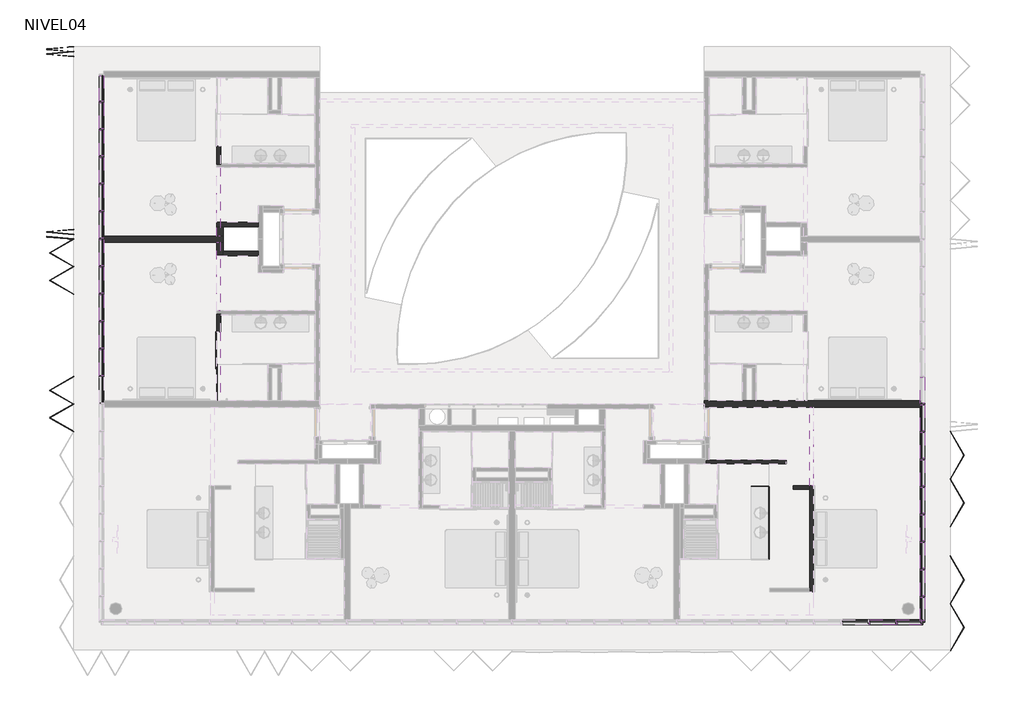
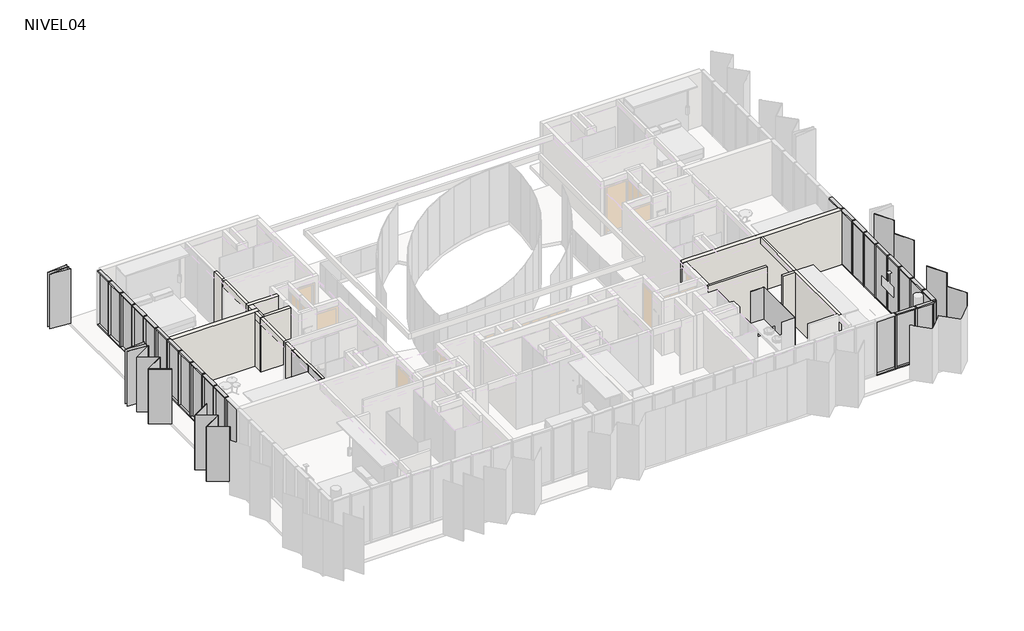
# One storey, part 4 of 8: 68 members, 30 plates, 18 walls.
"""IFC4 building model written with IfcOpenShell, lengths in millimetres."""

from ifc_helpers import new_model, si_unit, frame, origin, place, context, project, spatial, polyline, outline, extrude, faceted_brep, transform, mapped, element, save
from components import rectangular_mullion_50_x_150mm_8dc60d6a, rectangular_mullion_50_x_150mm_324a6438, rectangular_mullion_50_x_150mm_d09437e2, rectangular_mullion_50_x_150mm_5dc04e1f, rectangular_mullion_50_x_150mm_33c2bde1, rectangular_mullion_50_x_150mm_da4cfd0d, folding_hd_folding_hd_60_29c1f600, folding_hd_folding_hd_85_cdaf17b6, plate_a966da8b, panel_corredera_cr_panel_corredera_0b5135b5, system_panel_cr_shower_91adf229, system_panel_cr_shower_8ff19449, system_panel_cr_shower_d0c7b907, system_panel_glazed_8b30d0e9, system_panel_glazed_8b1c2311, system_panel_glazed_24c908d7, system_panel_glazed_6ccc6dc1

model = new_model("IFC4")

# Units and contexts
model_context = context("Model", 3, world=origin())
ifc_project = project(units=[si_unit("LENGTHUNIT", "METRE", prefix="MILLI")], contexts=[model_context])

# Site, building, storey
site = spatial("IfcSite", under=ifc_project)
building = spatial("IfcBuilding", under=site)
storey = spatial("IfcBuildingStorey", under=building, Name="NIVEL04", Elevation=7940.0)

# Members
placement = place(None, origin())
rectangular_mullion_50_x_150mm_shape = rectangular_mullion_50_x_150mm_8dc60d6a(model_context)
element("IfcMember", 1, ObjectType="Rectangular Mullion : 50 x 150mm", at=placement, inside=storey, context=model_context, shape_type="MappedRepresentation", body=[
    mapped(rectangular_mullion_50_x_150mm_shape, transform((-20633.5934748, 9658.9139237, 10490.0), x_axis=(0.0, 0.0, 1.0), y_axis=(-1.0, 0.0, 0.0), z_axis=(0.0, -1.0, 0.0))),
])
rectangular_mullion_50_x_150mm_2_shape = rectangular_mullion_50_x_150mm_324a6438(model_context)
element("IfcMember", 2, ObjectType="Rectangular Mullion : 50 x 150mm", at=placement, inside=storey, context=model_context, shape_type="MappedRepresentation", body=[
    mapped(rectangular_mullion_50_x_150mm_2_shape, transform((-20633.5934748, 8758.9139237, 10490.0), x_axis=(0.0, 0.0, 1.0), y_axis=(-1.0, 0.0, 0.0), z_axis=(0.0, -1.0, 0.0))),
])
element("IfcMember", 3, ObjectType="Rectangular Mullion : 50 x 150mm", at=placement, inside=storey, context=model_context, shape_type="MappedRepresentation", body=[
    mapped(rectangular_mullion_50_x_150mm_2_shape, transform((-20633.5934748, 7858.9139237, 10490.0), x_axis=(0.0, 0.0, 1.0), y_axis=(-1.0, 0.0, 0.0), z_axis=(0.0, -1.0, 0.0))),
])
element("IfcMember", 4, ObjectType="Rectangular Mullion : 50 x 150mm", at=placement, inside=storey, context=model_context, shape_type="MappedRepresentation", body=[
    mapped(rectangular_mullion_50_x_150mm_2_shape, transform((-20633.5934748, 6958.9139237, 10490.0), x_axis=(0.0, 0.0, 1.0), y_axis=(-1.0, 0.0, 0.0), z_axis=(0.0, -1.0, 0.0))),
])
element("IfcMember", 5, ObjectType="Rectangular Mullion : 50 x 150mm", at=placement, inside=storey, context=model_context, shape_type="MappedRepresentation", body=[
    mapped(rectangular_mullion_50_x_150mm_2_shape, transform((-20633.5934748, 6058.9139237, 10490.0), x_axis=(0.0, 0.0, 1.0), y_axis=(-1.0, 0.0, 0.0), z_axis=(0.0, -1.0, 0.0))),
])
element("IfcMember", 6, ObjectType="Rectangular Mullion : 50 x 150mm", at=placement, inside=storey, context=model_context, shape_type="MappedRepresentation", body=[
    mapped(rectangular_mullion_50_x_150mm_2_shape, transform((-20633.5934748, 5158.9139237, 10490.0), x_axis=(0.0, 0.0, 1.0), y_axis=(-1.0, 0.0, 0.0), z_axis=(0.0, -1.0, 0.0))),
])
element("IfcMember", 7, ObjectType="Rectangular Mullion : 50 x 150mm", at=placement, inside=storey, context=model_context, shape_type="MappedRepresentation", body=[
    mapped(rectangular_mullion_50_x_150mm_2_shape, transform((-20633.5934748, 4258.9139237, 10490.0), x_axis=(0.0, 0.0, 1.0), y_axis=(-1.0, 0.0, 0.0), z_axis=(0.0, -1.0, 0.0))),
])
element("IfcMember", 8, ObjectType="Rectangular Mullion : 50 x 150mm", at=placement, inside=storey, context=model_context, shape_type="MappedRepresentation", body=[
    mapped(rectangular_mullion_50_x_150mm_2_shape, transform((-20633.5934748, 3358.9139237, 10490.0), x_axis=(0.0, 0.0, 1.0), y_axis=(-1.0, 0.0, 0.0), z_axis=(0.0, -1.0, 0.0))),
])
element("IfcMember", 9, ObjectType="Rectangular Mullion : 50 x 150mm", at=placement, inside=storey, context=model_context, shape_type="MappedRepresentation", body=[
    mapped(rectangular_mullion_50_x_150mm_2_shape, transform((-20633.5934748, 2458.9139237, 10490.0), x_axis=(0.0, 0.0, 1.0), y_axis=(-1.0, 0.0, 0.0), z_axis=(0.0, -1.0, 0.0))),
])
element("IfcMember", 10, ObjectType="Rectangular Mullion : 50 x 150mm", at=placement, inside=storey, context=model_context, shape_type="MappedRepresentation", body=[
    mapped(rectangular_mullion_50_x_150mm_2_shape, transform((-20633.5934748, 1558.9139237, 10490.0), x_axis=(0.0, 0.0, 1.0), y_axis=(-1.0, 0.0, 0.0), z_axis=(0.0, -1.0, 0.0))),
])
element("IfcMember", 11, ObjectType="Rectangular Mullion : 50 x 150mm", at=placement, inside=storey, context=model_context, shape_type="MappedRepresentation", body=[
    mapped(rectangular_mullion_50_x_150mm_2_shape, transform((-20633.5934748, 658.9139237, 10490.0), x_axis=(0.0, 0.0, 1.0), y_axis=(-1.0, 0.0, 0.0), z_axis=(0.0, -1.0, 0.0))),
])
element("IfcMember", 12, ObjectType="Rectangular Mullion : 50 x 150mm", at=placement, inside=storey, context=model_context, shape_type="MappedRepresentation", body=[
    mapped(rectangular_mullion_50_x_150mm_shape, transform((-20633.5934748, 10483.9139241, 7920.0), x_axis=(0.0, 0.0, -1.0), y_axis=(-1.0, 0.0, 0.0), z_axis=(0.0, 1.0, 0.0))),
])
element("IfcMember", 13, ObjectType="Rectangular Mullion : 50 x 150mm", at=placement, inside=storey, context=model_context, shape_type="MappedRepresentation", body=[
    mapped(rectangular_mullion_50_x_150mm_2_shape, transform((-20633.5934748, 9608.9139237, 7920.0), x_axis=(0.0, 0.0, -1.0), y_axis=(-1.0, 0.0, 0.0), z_axis=(0.0, 1.0, 0.0))),
])
element("IfcMember", 14, ObjectType="Rectangular Mullion : 50 x 150mm", at=placement, inside=storey, context=model_context, shape_type="MappedRepresentation", body=[
    mapped(rectangular_mullion_50_x_150mm_2_shape, transform((-20633.5934748, 8708.9139237, 7920.0), x_axis=(0.0, 0.0, -1.0), y_axis=(-1.0, 0.0, 0.0), z_axis=(0.0, 1.0, 0.0))),
])
element("IfcMember", 15, ObjectType="Rectangular Mullion : 50 x 150mm", at=placement, inside=storey, context=model_context, shape_type="MappedRepresentation", body=[
    mapped(rectangular_mullion_50_x_150mm_2_shape, transform((-20633.5934748, 7808.9139237, 7920.0), x_axis=(0.0, 0.0, -1.0), y_axis=(-1.0, 0.0, 0.0), z_axis=(0.0, 1.0, 0.0))),
])
element("IfcMember", 16, ObjectType="Rectangular Mullion : 50 x 150mm", at=placement, inside=storey, context=model_context, shape_type="MappedRepresentation", body=[
    mapped(rectangular_mullion_50_x_150mm_2_shape, transform((-20633.5934748, 6908.9139237, 7920.0), x_axis=(0.0, 0.0, -1.0), y_axis=(-1.0, 0.0, 0.0), z_axis=(0.0, 1.0, 0.0))),
])
element("IfcMember", 17, ObjectType="Rectangular Mullion : 50 x 150mm", at=placement, inside=storey, context=model_context, shape_type="MappedRepresentation", body=[
    mapped(rectangular_mullion_50_x_150mm_2_shape, transform((-20633.5934748, 6008.9139237, 7920.0), x_axis=(0.0, 0.0, -1.0), y_axis=(-1.0, 0.0, 0.0), z_axis=(0.0, 1.0, 0.0))),
])
element("IfcMember", 18, ObjectType="Rectangular Mullion : 50 x 150mm", at=placement, inside=storey, context=model_context, shape_type="MappedRepresentation", body=[
    mapped(rectangular_mullion_50_x_150mm_2_shape, transform((-20633.5934748, 5108.9139237, 7920.0), x_axis=(0.0, 0.0, -1.0), y_axis=(-1.0, 0.0, 0.0), z_axis=(0.0, 1.0, 0.0))),
])
element("IfcMember", 19, ObjectType="Rectangular Mullion : 50 x 150mm", at=placement, inside=storey, context=model_context, shape_type="MappedRepresentation", body=[
    mapped(rectangular_mullion_50_x_150mm_2_shape, transform((-20633.5934748, 4208.9139237, 7920.0), x_axis=(0.0, 0.0, -1.0), y_axis=(-1.0, 0.0, 0.0), z_axis=(0.0, 1.0, 0.0))),
])
element("IfcMember", 20, ObjectType="Rectangular Mullion : 50 x 150mm", at=placement, inside=storey, context=model_context, shape_type="MappedRepresentation", body=[
    mapped(rectangular_mullion_50_x_150mm_2_shape, transform((-20633.5934748, 3308.9139237, 7920.0), x_axis=(0.0, 0.0, -1.0), y_axis=(-1.0, 0.0, 0.0), z_axis=(0.0, 1.0, 0.0))),
])
element("IfcMember", 21, ObjectType="Rectangular Mullion : 50 x 150mm", at=placement, inside=storey, context=model_context, shape_type="MappedRepresentation", body=[
    mapped(rectangular_mullion_50_x_150mm_2_shape, transform((-20633.5934748, 2408.9139237, 7920.0), x_axis=(0.0, 0.0, -1.0), y_axis=(-1.0, 0.0, 0.0), z_axis=(0.0, 1.0, 0.0))),
])
element("IfcMember", 22, ObjectType="Rectangular Mullion : 50 x 150mm", at=placement, inside=storey, context=model_context, shape_type="MappedRepresentation", body=[
    mapped(rectangular_mullion_50_x_150mm_2_shape, transform((-20633.5934748, 1508.9139237, 7920.0), x_axis=(0.0, 0.0, -1.0), y_axis=(-1.0, 0.0, 0.0), z_axis=(0.0, 1.0, 0.0))),
])
element("IfcMember", 23, ObjectType="Rectangular Mullion : 50 x 150mm", at=placement, inside=storey, context=model_context, shape_type="MappedRepresentation", body=[
    mapped(rectangular_mullion_50_x_150mm_2_shape, transform((-20633.5934748, 608.9139237, 7920.0), x_axis=(0.0, 0.0, -1.0), y_axis=(-1.0, 0.0, 0.0), z_axis=(0.0, 1.0, 0.0))),
])
element("IfcMember", 24, ObjectType="Rectangular Mullion : 50 x 150mm", at=placement, inside=storey, context=model_context, shape_type="MappedRepresentation", body=[
    mapped(rectangular_mullion_50_x_150mm_2_shape, transform((4541.4065252, -7416.0860759, 10490.0), x_axis=(0.0, 0.0, 1.0), y_axis=(0.0, 1.0, 0.0), z_axis=(-1.0, 0.0, 0.0))),
])
element("IfcMember", 25, ObjectType="Rectangular Mullion : 50 x 150mm", at=placement, inside=storey, context=model_context, shape_type="MappedRepresentation", body=[
    mapped(rectangular_mullion_50_x_150mm_2_shape, transform((4491.4065252, -7416.0860759, 7920.0), x_axis=(0.0, 0.0, -1.0), y_axis=(0.0, 1.0, 0.0), z_axis=(1.0, 0.0, 0.0))),
])
element("IfcMember", 26, ObjectType="Rectangular Mullion : 50 x 150mm", at=placement, inside=storey, context=model_context, shape_type="MappedRepresentation", body=[
    mapped(rectangular_mullion_50_x_150mm_2_shape, transform((5391.4065252, -7416.0860759, 7920.0), x_axis=(0.0, 0.0, -1.0), y_axis=(0.0, 1.0, 0.0), z_axis=(1.0, 0.0, 0.0))),
])
rectangular_mullion_50_x_150mm_3_shape = rectangular_mullion_50_x_150mm_d09437e2(model_context)
element("IfcMember", 27, ObjectType="Rectangular Mullion : 50 x 150mm", at=placement, inside=storey, context=model_context, shape_type="MappedRepresentation", body=[
    mapped(rectangular_mullion_50_x_150mm_3_shape, transform((6266.4065252, -7366.0860759, 10490.0), x_axis=(0.0, 0.0, 1.0), y_axis=(-1.0, 0.0, 0.0), z_axis=(0.0, -1.0, 0.0))),
])
element("IfcMember", 28, ObjectType="Rectangular Mullion : 50 x 150mm", at=placement, inside=storey, context=model_context, shape_type="MappedRepresentation", body=[
    mapped(rectangular_mullion_50_x_150mm_2_shape, transform((6266.4065252, -241.0860763, 10490.0), x_axis=(0.0, 0.0, 1.0), y_axis=(-1.0, 0.0, 0.0), z_axis=(0.0, -1.0, 0.0))),
])
element("IfcMember", 29, ObjectType="Rectangular Mullion : 50 x 150mm", at=placement, inside=storey, context=model_context, shape_type="MappedRepresentation", body=[
    mapped(rectangular_mullion_50_x_150mm_2_shape, transform((6266.4065252, -1141.0860763, 10490.0), x_axis=(0.0, 0.0, 1.0), y_axis=(-1.0, 0.0, 0.0), z_axis=(0.0, -1.0, 0.0))),
])
element("IfcMember", 30, ObjectType="Rectangular Mullion : 50 x 150mm", at=placement, inside=storey, context=model_context, shape_type="MappedRepresentation", body=[
    mapped(rectangular_mullion_50_x_150mm_2_shape, transform((6266.4065252, -2041.0860763, 10490.0), x_axis=(0.0, 0.0, 1.0), y_axis=(-1.0, 0.0, 0.0), z_axis=(0.0, -1.0, 0.0))),
])
element("IfcMember", 31, ObjectType="Rectangular Mullion : 50 x 150mm", at=placement, inside=storey, context=model_context, shape_type="MappedRepresentation", body=[
    mapped(rectangular_mullion_50_x_150mm_2_shape, transform((6266.4065252, -2941.0860763, 10490.0), x_axis=(0.0, 0.0, 1.0), y_axis=(-1.0, 0.0, 0.0), z_axis=(0.0, -1.0, 0.0))),
])
element("IfcMember", 32, ObjectType="Rectangular Mullion : 50 x 150mm", at=placement, inside=storey, context=model_context, shape_type="MappedRepresentation", body=[
    mapped(rectangular_mullion_50_x_150mm_2_shape, transform((6266.4065252, -3841.0860763, 10490.0), x_axis=(0.0, 0.0, 1.0), y_axis=(-1.0, 0.0, 0.0), z_axis=(0.0, -1.0, 0.0))),
])
element("IfcMember", 33, ObjectType="Rectangular Mullion : 50 x 150mm", at=placement, inside=storey, context=model_context, shape_type="MappedRepresentation", body=[
    mapped(rectangular_mullion_50_x_150mm_2_shape, transform((6266.4065252, -4741.0860763, 10490.0), x_axis=(0.0, 0.0, 1.0), y_axis=(-1.0, 0.0, 0.0), z_axis=(0.0, -1.0, 0.0))),
])
element("IfcMember", 34, ObjectType="Rectangular Mullion : 50 x 150mm", at=placement, inside=storey, context=model_context, shape_type="MappedRepresentation", body=[
    mapped(rectangular_mullion_50_x_150mm_2_shape, transform((6266.4065252, -5641.0860763, 10490.0), x_axis=(0.0, 0.0, 1.0), y_axis=(-1.0, 0.0, 0.0), z_axis=(0.0, -1.0, 0.0))),
])
element("IfcMember", 35, ObjectType="Rectangular Mullion : 50 x 150mm", at=placement, inside=storey, context=model_context, shape_type="MappedRepresentation", body=[
    mapped(rectangular_mullion_50_x_150mm_2_shape, transform((6266.4065252, -6541.0860763, 10490.0), x_axis=(0.0, 0.0, 1.0), y_axis=(-1.0, 0.0, 0.0), z_axis=(0.0, -1.0, 0.0))),
])
element("IfcMember", 36, ObjectType="Rectangular Mullion : 50 x 150mm", at=placement, inside=storey, context=model_context, shape_type="MappedRepresentation", body=[
    mapped(rectangular_mullion_50_x_150mm_2_shape, transform((6266.4065252, -291.0860763, 7920.0), x_axis=(0.0, 0.0, -1.0), y_axis=(-1.0, 0.0, 0.0), z_axis=(0.0, 1.0, 0.0))),
])
element("IfcMember", 37, ObjectType="Rectangular Mullion : 50 x 150mm", at=placement, inside=storey, context=model_context, shape_type="MappedRepresentation", body=[
    mapped(rectangular_mullion_50_x_150mm_2_shape, transform((6266.4065252, -1191.0860763, 7920.0), x_axis=(0.0, 0.0, -1.0), y_axis=(-1.0, 0.0, 0.0), z_axis=(0.0, 1.0, 0.0))),
])
element("IfcMember", 38, ObjectType="Rectangular Mullion : 50 x 150mm", at=placement, inside=storey, context=model_context, shape_type="MappedRepresentation", body=[
    mapped(rectangular_mullion_50_x_150mm_2_shape, transform((6266.4065252, -2091.0860763, 7920.0), x_axis=(0.0, 0.0, -1.0), y_axis=(-1.0, 0.0, 0.0), z_axis=(0.0, 1.0, 0.0))),
])
element("IfcMember", 39, ObjectType="Rectangular Mullion : 50 x 150mm", at=placement, inside=storey, context=model_context, shape_type="MappedRepresentation", body=[
    mapped(rectangular_mullion_50_x_150mm_2_shape, transform((6266.4065252, -2991.0860763, 7920.0), x_axis=(0.0, 0.0, -1.0), y_axis=(-1.0, 0.0, 0.0), z_axis=(0.0, 1.0, 0.0))),
])
element("IfcMember", 40, ObjectType="Rectangular Mullion : 50 x 150mm", at=placement, inside=storey, context=model_context, shape_type="MappedRepresentation", body=[
    mapped(rectangular_mullion_50_x_150mm_2_shape, transform((6266.4065252, -3891.0860763, 7920.0), x_axis=(0.0, 0.0, -1.0), y_axis=(-1.0, 0.0, 0.0), z_axis=(0.0, 1.0, 0.0))),
])
element("IfcMember", 41, ObjectType="Rectangular Mullion : 50 x 150mm", at=placement, inside=storey, context=model_context, shape_type="MappedRepresentation", body=[
    mapped(rectangular_mullion_50_x_150mm_2_shape, transform((6266.4065252, -4791.0860763, 7920.0), x_axis=(0.0, 0.0, -1.0), y_axis=(-1.0, 0.0, 0.0), z_axis=(0.0, 1.0, 0.0))),
])
element("IfcMember", 42, ObjectType="Rectangular Mullion : 50 x 150mm", at=placement, inside=storey, context=model_context, shape_type="MappedRepresentation", body=[
    mapped(rectangular_mullion_50_x_150mm_2_shape, transform((6266.4065252, -5691.0860763, 7920.0), x_axis=(0.0, 0.0, -1.0), y_axis=(-1.0, 0.0, 0.0), z_axis=(0.0, 1.0, 0.0))),
])
element("IfcMember", 43, ObjectType="Rectangular Mullion : 50 x 150mm", at=placement, inside=storey, context=model_context, shape_type="MappedRepresentation", body=[
    mapped(rectangular_mullion_50_x_150mm_3_shape, transform((6266.4065252, -6591.0860763, 7920.0), x_axis=(0.0, 0.0, -1.0), y_axis=(-1.0, 0.0, 0.0), z_axis=(0.0, 1.0, 0.0))),
])
rectangular_mullion_50_x_150mm_4_shape = rectangular_mullion_50_x_150mm_5dc04e1f(model_context)
element("IfcMember", 44, ObjectType="Rectangular Mullion : 50 x 150mm", at=placement, inside=storey, context=model_context, shape_type="MappedRepresentation", body=[
    mapped(rectangular_mullion_50_x_150mm_4_shape, transform((5441.4065252, -7416.0860759, 10490.0), x_axis=(0.0, 0.0, 1.0), y_axis=(0.0, 1.0, 0.0), z_axis=(-1.0, 0.0, 0.0))),
])
element("IfcMember", 45, ObjectType="Rectangular Mullion : 50 x 150mm", at=placement, inside=storey, context=model_context, shape_type="MappedRepresentation", body=[
    mapped(rectangular_mullion_50_x_150mm_4_shape, transform((6216.4065252, -7416.0860759, 7920.0), x_axis=(0.0, 0.0, -1.0), y_axis=(0.0, 1.0, 0.0), z_axis=(1.0, 0.0, 0.0))),
])
rectangular_mullion_50_x_150mm_5_shape = rectangular_mullion_50_x_150mm_33c2bde1(model_context)
element("IfcMember", 46, ObjectType="Rectangular Mullion : 50 x 150mm", at=placement, inside=storey, context=model_context, shape_type="MappedRepresentation", body=[
    mapped(rectangular_mullion_50_x_150mm_5_shape, transform((-20633.5934748, 9633.9139237, 7920.0), x_axis=(0.0, -1.0, 0.0), y_axis=(-1.0, 0.0, 0.0), z_axis=(0.0, 0.0, -1.0))),
])
element("IfcMember", 47, ObjectType="Rectangular Mullion : 50 x 150mm", at=placement, inside=storey, context=model_context, shape_type="MappedRepresentation", body=[
    mapped(rectangular_mullion_50_x_150mm_5_shape, transform((-20633.5934748, 8733.9139237, 7920.0), x_axis=(0.0, -1.0, 0.0), y_axis=(-1.0, 0.0, 0.0), z_axis=(0.0, 0.0, -1.0))),
])
element("IfcMember", 48, ObjectType="Rectangular Mullion : 50 x 150mm", at=placement, inside=storey, context=model_context, shape_type="MappedRepresentation", body=[
    mapped(rectangular_mullion_50_x_150mm_5_shape, transform((-20633.5934748, 7833.9139237, 7920.0), x_axis=(0.0, -1.0, 0.0), y_axis=(-1.0, 0.0, 0.0), z_axis=(0.0, 0.0, -1.0))),
])
element("IfcMember", 49, ObjectType="Rectangular Mullion : 50 x 150mm", at=placement, inside=storey, context=model_context, shape_type="MappedRepresentation", body=[
    mapped(rectangular_mullion_50_x_150mm_5_shape, transform((-20633.5934748, 6933.9139237, 7920.0), x_axis=(0.0, -1.0, 0.0), y_axis=(-1.0, 0.0, 0.0), z_axis=(0.0, 0.0, -1.0))),
])
element("IfcMember", 50, ObjectType="Rectangular Mullion : 50 x 150mm", at=placement, inside=storey, context=model_context, shape_type="MappedRepresentation", body=[
    mapped(rectangular_mullion_50_x_150mm_5_shape, transform((-20633.5934748, 6033.9139237, 7920.0), x_axis=(0.0, -1.0, 0.0), y_axis=(-1.0, 0.0, 0.0), z_axis=(0.0, 0.0, -1.0))),
])
element("IfcMember", 51, ObjectType="Rectangular Mullion : 50 x 150mm", at=placement, inside=storey, context=model_context, shape_type="MappedRepresentation", body=[
    mapped(rectangular_mullion_50_x_150mm_5_shape, transform((-20633.5934748, 5133.9139237, 7920.0), x_axis=(0.0, -1.0, 0.0), y_axis=(-1.0, 0.0, 0.0), z_axis=(0.0, 0.0, -1.0))),
])
element("IfcMember", 52, ObjectType="Rectangular Mullion : 50 x 150mm", at=placement, inside=storey, context=model_context, shape_type="MappedRepresentation", body=[
    mapped(rectangular_mullion_50_x_150mm_5_shape, transform((-20633.5934748, 4233.9139237, 7920.0), x_axis=(0.0, -1.0, 0.0), y_axis=(-1.0, 0.0, 0.0), z_axis=(0.0, 0.0, -1.0))),
])
element("IfcMember", 53, ObjectType="Rectangular Mullion : 50 x 150mm", at=placement, inside=storey, context=model_context, shape_type="MappedRepresentation", body=[
    mapped(rectangular_mullion_50_x_150mm_5_shape, transform((-20633.5934748, 3333.9139237, 7920.0), x_axis=(0.0, -1.0, 0.0), y_axis=(-1.0, 0.0, 0.0), z_axis=(0.0, 0.0, -1.0))),
])
element("IfcMember", 54, ObjectType="Rectangular Mullion : 50 x 150mm", at=placement, inside=storey, context=model_context, shape_type="MappedRepresentation", body=[
    mapped(rectangular_mullion_50_x_150mm_5_shape, transform((-20633.5934748, 2433.9139237, 7920.0), x_axis=(0.0, -1.0, 0.0), y_axis=(-1.0, 0.0, 0.0), z_axis=(0.0, 0.0, -1.0))),
])
element("IfcMember", 55, ObjectType="Rectangular Mullion : 50 x 150mm", at=placement, inside=storey, context=model_context, shape_type="MappedRepresentation", body=[
    mapped(rectangular_mullion_50_x_150mm_5_shape, transform((-20633.5934748, 1533.9139237, 7920.0), x_axis=(0.0, -1.0, 0.0), y_axis=(-1.0, 0.0, 0.0), z_axis=(0.0, 0.0, -1.0))),
])
element("IfcMember", 56, ObjectType="Rectangular Mullion : 50 x 150mm", at=placement, inside=storey, context=model_context, shape_type="MappedRepresentation", body=[
    mapped(rectangular_mullion_50_x_150mm_5_shape, transform((-20633.5934748, 633.9139237, 7920.0), x_axis=(0.0, -1.0, 0.0), y_axis=(-1.0, 0.0, 0.0), z_axis=(0.0, 0.0, -1.0))),
])
element("IfcMember", 57, ObjectType="Rectangular Mullion : 50 x 150mm", at=placement, inside=storey, context=model_context, shape_type="MappedRepresentation", body=[
    mapped(rectangular_mullion_50_x_150mm_5_shape, transform((4516.4065252, -7416.0860759, 7920.0), x_axis=(-1.0, 0.0, 0.0), y_axis=(0.0, 1.0, 0.0), z_axis=(0.0, 0.0, -1.0))),
])
element("IfcMember", 58, ObjectType="Rectangular Mullion : 50 x 150mm", at=placement, inside=storey, context=model_context, shape_type="MappedRepresentation", body=[
    mapped(rectangular_mullion_50_x_150mm_5_shape, transform((5416.4065252, -7416.0860759, 7920.0), x_axis=(-1.0, 0.0, 0.0), y_axis=(0.0, 1.0, 0.0), z_axis=(0.0, 0.0, -1.0))),
])
rectangular_mullion_50_x_150mm_6_shape = rectangular_mullion_50_x_150mm_da4cfd0d(model_context)
element("IfcMember", 59, ObjectType="Rectangular Mullion : 50 x 150mm", at=placement, inside=storey, context=model_context, shape_type="MappedRepresentation", body=[
    mapped(rectangular_mullion_50_x_150mm_6_shape, transform((6266.4065252, -7416.0860759, 10490.0), x_axis=(1.0, 0.0, 0.0), y_axis=(0.0, 1.0, 0.0), z_axis=(0.0, 0.0, 1.0))),
])
element("IfcMember", 60, ObjectType="Rectangular Mullion : 50 x 150mm", at=placement, inside=storey, context=model_context, shape_type="MappedRepresentation", body=[
    mapped(rectangular_mullion_50_x_150mm_5_shape, transform((6266.4065252, -266.0860763, 7920.0), x_axis=(0.0, -1.0, 0.0), y_axis=(-1.0, 0.0, 0.0), z_axis=(0.0, 0.0, -1.0))),
])
element("IfcMember", 61, ObjectType="Rectangular Mullion : 50 x 150mm", at=placement, inside=storey, context=model_context, shape_type="MappedRepresentation", body=[
    mapped(rectangular_mullion_50_x_150mm_5_shape, transform((6266.4065252, -1166.0860763, 7920.0), x_axis=(0.0, -1.0, 0.0), y_axis=(-1.0, 0.0, 0.0), z_axis=(0.0, 0.0, -1.0))),
])
element("IfcMember", 62, ObjectType="Rectangular Mullion : 50 x 150mm", at=placement, inside=storey, context=model_context, shape_type="MappedRepresentation", body=[
    mapped(rectangular_mullion_50_x_150mm_5_shape, transform((6266.4065252, -2066.0860763, 7920.0), x_axis=(0.0, -1.0, 0.0), y_axis=(-1.0, 0.0, 0.0), z_axis=(0.0, 0.0, -1.0))),
])
element("IfcMember", 63, ObjectType="Rectangular Mullion : 50 x 150mm", at=placement, inside=storey, context=model_context, shape_type="MappedRepresentation", body=[
    mapped(rectangular_mullion_50_x_150mm_5_shape, transform((6266.4065252, -2966.0860763, 7920.0), x_axis=(0.0, -1.0, 0.0), y_axis=(-1.0, 0.0, 0.0), z_axis=(0.0, 0.0, -1.0))),
])
element("IfcMember", 64, ObjectType="Rectangular Mullion : 50 x 150mm", at=placement, inside=storey, context=model_context, shape_type="MappedRepresentation", body=[
    mapped(rectangular_mullion_50_x_150mm_5_shape, transform((6266.4065252, -3866.0860763, 7920.0), x_axis=(0.0, -1.0, 0.0), y_axis=(-1.0, 0.0, 0.0), z_axis=(0.0, 0.0, -1.0))),
])
element("IfcMember", 65, ObjectType="Rectangular Mullion : 50 x 150mm", at=placement, inside=storey, context=model_context, shape_type="MappedRepresentation", body=[
    mapped(rectangular_mullion_50_x_150mm_5_shape, transform((6266.4065252, -4766.0860763, 7920.0), x_axis=(0.0, -1.0, 0.0), y_axis=(-1.0, 0.0, 0.0), z_axis=(0.0, 0.0, -1.0))),
])
element("IfcMember", 66, ObjectType="Rectangular Mullion : 50 x 150mm", at=placement, inside=storey, context=model_context, shape_type="MappedRepresentation", body=[
    mapped(rectangular_mullion_50_x_150mm_5_shape, transform((6266.4065252, -5666.0860763, 7920.0), x_axis=(0.0, -1.0, 0.0), y_axis=(-1.0, 0.0, 0.0), z_axis=(0.0, 0.0, -1.0))),
])
element("IfcMember", 67, ObjectType="Rectangular Mullion : 50 x 150mm", at=placement, inside=storey, context=model_context, shape_type="MappedRepresentation", body=[
    mapped(rectangular_mullion_50_x_150mm_5_shape, transform((6266.4065252, -6566.0860763, 7920.0), x_axis=(0.0, -1.0, 0.0), y_axis=(-1.0, 0.0, 0.0), z_axis=(0.0, 0.0, -1.0))),
])
element("IfcMember", 68, ObjectType="Rectangular Mullion : 50 x 150mm", at=placement, inside=storey, context=model_context, shape_type="MappedRepresentation", body=[
    mapped(rectangular_mullion_50_x_150mm_6_shape, transform((6266.4065252, -7416.0860759, 7920.0), x_axis=(0.0, -1.0, 0.0), y_axis=(-1.0, 0.0, 0.0), z_axis=(0.0, 0.0, -1.0))),
])

# Plates
folding_hd_folding_hd_60_shape = folding_hd_folding_hd_60_29c1f600(model_context)
element("IfcPlate", 69, ObjectType="FOLDING HD : FOLDING HD 60", at=placement, inside=storey, context=model_context, shape_type="MappedRepresentation", body=[
    mapped(folding_hd_folding_hd_60_shape, transform((-21533.5934748, 1983.9139241, 7920.0), x_axis=(0.0, -1.0, 0.0), y_axis=(1.0, 0.0, 0.0), z_axis=(0.0, 0.0, 1.0))),
])
folding_hd_folding_hd_85_shape = folding_hd_folding_hd_85_cdaf17b6(model_context)
element("IfcPlate", 70, ObjectType="FOLDING HD : FOLDING HD 85", at=placement, inside=storey, context=model_context, shape_type="MappedRepresentation", body=[
    mapped(folding_hd_folding_hd_85_shape, transform((-21533.5934748, 8283.9139241, 7920.0), x_axis=(0.0, -1.0, 0.0), y_axis=(1.0, 0.0, 0.0), z_axis=(0.0, 0.0, 1.0))),
])
plate_shape = plate_a966da8b(model_context)
element("IfcPlate", 71, ObjectType="FOLDING HD : FOLDING HD-90_30\"", at=placement, inside=storey, context=model_context, shape_type="MappedRepresentation", body=[
    mapped(plate_shape, transform((7166.4065252, -4766.0860759, 7920.0), x_axis=(0.0, -1.0, 0.0), y_axis=(1.0, 0.0, 0.0), z_axis=(0.0, 0.0, 1.0))),
])
panel_corredera_cr_panel_corredera_shape = panel_corredera_cr_panel_corredera_0b5135b5(model_context)
element("IfcPlate", 72, ObjectType="PANEL CORREDERA : CR_PANEL CORREDERA", at=placement, inside=storey, context=model_context, shape_type="MappedRepresentation", body=[
    mapped(panel_corredera_cr_panel_corredera_shape, transform((-16848.5934748, 1563.9139241, 7940.0), x_axis=(0.0, -1.0, 0.0), y_axis=(1.0, 0.0, 0.0), z_axis=(0.0, 0.0, 1.0))),
])
system_panel_cr_shower_shape = system_panel_cr_shower_91adf229(model_context)
element("IfcPlate", 73, ObjectType="System Panel : CR-SHOWER", at=placement, inside=storey, context=model_context, shape_type="MappedRepresentation", body=[
    mapped(system_panel_cr_shower_shape, transform((1226.4065252, -4164.8462541, 7940.0), x_axis=(0.0, 1.0, 0.0), y_axis=(-1.0, 0.0, 0.0), z_axis=(0.0, 0.0, 1.0))),
])
system_panel_cr_shower_2_shape = system_panel_cr_shower_8ff19449(model_context)
element("IfcPlate", 74, ObjectType="System Panel : CR-SHOWER", at=placement, inside=storey, context=model_context, shape_type="MappedRepresentation", body=[
    mapped(system_panel_cr_shower_2_shape, transform((936.4065252, -2966.0860763, 7940.0), x_axis=(1.0, 0.0, 0.0), y_axis=(0.0, 1.0, 0.0), z_axis=(0.0, 0.0, 1.0))),
])
system_panel_cr_shower_3_shape = system_panel_cr_shower_d0c7b907(model_context)
element("IfcPlate", 75, ObjectType="System Panel : CR-SHOWER", at=placement, inside=storey, context=model_context, shape_type="MappedRepresentation", body=[
    mapped(system_panel_cr_shower_3_shape, transform((-16848.5934748, 433.9139241, 7940.0), x_axis=(0.0, -1.0, 0.0), y_axis=(1.0, 0.0, 0.0), z_axis=(0.0, 0.0, 1.0))),
])
system_panel_glazed_shape = system_panel_glazed_8b30d0e9(model_context)
element("IfcPlate", 76, ObjectType="System Panel : Glazed", at=placement, inside=storey, context=model_context, shape_type="MappedRepresentation", body=[
    mapped(system_panel_glazed_shape, transform((-20633.5934748, 10071.4139239, 7970.0), x_axis=(0.0, -1.0, 0.0), y_axis=(1.0, 0.0, 0.0), z_axis=(0.0, 0.0, 1.0))),
])
system_panel_glazed_2_shape = system_panel_glazed_8b1c2311(model_context)
element("IfcPlate", 77, ObjectType="System Panel : Glazed", at=placement, inside=storey, context=model_context, shape_type="MappedRepresentation", body=[
    mapped(system_panel_glazed_2_shape, transform((-20633.5934748, 9183.9139237, 7970.0), x_axis=(0.0, -1.0, 0.0), y_axis=(1.0, 0.0, 0.0), z_axis=(0.0, 0.0, 1.0))),
])
element("IfcPlate", 78, ObjectType="System Panel : Glazed", at=placement, inside=storey, context=model_context, shape_type="MappedRepresentation", body=[
    mapped(system_panel_glazed_2_shape, transform((-20633.5934748, 8283.9139237, 7970.0), x_axis=(0.0, -1.0, 0.0), y_axis=(1.0, 0.0, 0.0), z_axis=(0.0, 0.0, 1.0))),
])
element("IfcPlate", 79, ObjectType="System Panel : Glazed", at=placement, inside=storey, context=model_context, shape_type="MappedRepresentation", body=[
    mapped(system_panel_glazed_2_shape, transform((-20633.5934748, 7383.9139237, 7970.0), x_axis=(0.0, -1.0, 0.0), y_axis=(1.0, 0.0, 0.0), z_axis=(0.0, 0.0, 1.0))),
])
element("IfcPlate", 80, ObjectType="System Panel : Glazed", at=placement, inside=storey, context=model_context, shape_type="MappedRepresentation", body=[
    mapped(system_panel_glazed_2_shape, transform((-20633.5934748, 6483.9139237, 7970.0), x_axis=(0.0, -1.0, 0.0), y_axis=(1.0, 0.0, 0.0), z_axis=(0.0, 0.0, 1.0))),
])
element("IfcPlate", 81, ObjectType="System Panel : Glazed", at=placement, inside=storey, context=model_context, shape_type="MappedRepresentation", body=[
    mapped(system_panel_glazed_2_shape, transform((-20633.5934748, 5583.9139237, 7970.0), x_axis=(0.0, -1.0, 0.0), y_axis=(1.0, 0.0, 0.0), z_axis=(0.0, 0.0, 1.0))),
])
element("IfcPlate", 82, ObjectType="System Panel : Glazed", at=placement, inside=storey, context=model_context, shape_type="MappedRepresentation", body=[
    mapped(system_panel_glazed_2_shape, transform((-20633.5934748, 4683.9139237, 7970.0), x_axis=(0.0, -1.0, 0.0), y_axis=(1.0, 0.0, 0.0), z_axis=(0.0, 0.0, 1.0))),
])
element("IfcPlate", 83, ObjectType="System Panel : Glazed", at=placement, inside=storey, context=model_context, shape_type="MappedRepresentation", body=[
    mapped(system_panel_glazed_2_shape, transform((-20633.5934748, 3783.9139237, 7970.0), x_axis=(0.0, -1.0, 0.0), y_axis=(1.0, 0.0, 0.0), z_axis=(0.0, 0.0, 1.0))),
])
element("IfcPlate", 84, ObjectType="System Panel : Glazed", at=placement, inside=storey, context=model_context, shape_type="MappedRepresentation", body=[
    mapped(system_panel_glazed_2_shape, transform((-20633.5934748, 2883.9139237, 7970.0), x_axis=(0.0, -1.0, 0.0), y_axis=(1.0, 0.0, 0.0), z_axis=(0.0, 0.0, 1.0))),
])
element("IfcPlate", 85, ObjectType="System Panel : Glazed", at=placement, inside=storey, context=model_context, shape_type="MappedRepresentation", body=[
    mapped(system_panel_glazed_2_shape, transform((-20633.5934748, 1983.9139237, 7970.0), x_axis=(0.0, -1.0, 0.0), y_axis=(1.0, 0.0, 0.0), z_axis=(0.0, 0.0, 1.0))),
])
element("IfcPlate", 86, ObjectType="System Panel : Glazed", at=placement, inside=storey, context=model_context, shape_type="MappedRepresentation", body=[
    mapped(system_panel_glazed_2_shape, transform((-20633.5934748, 1083.9139237, 7970.0), x_axis=(0.0, -1.0, 0.0), y_axis=(1.0, 0.0, 0.0), z_axis=(0.0, 0.0, 1.0))),
])
element("IfcPlate", 87, ObjectType="System Panel : Glazed", at=placement, inside=storey, context=model_context, shape_type="MappedRepresentation", body=[
    mapped(system_panel_glazed_2_shape, transform((-20633.5934748, 183.9139237, 7970.0), x_axis=(0.0, -1.0, 0.0), y_axis=(1.0, 0.0, 0.0), z_axis=(0.0, 0.0, 1.0))),
])
system_panel_glazed_3_shape = system_panel_glazed_24c908d7(model_context)
element("IfcPlate", 88, ObjectType="System Panel : Glazed", at=placement, inside=storey, context=model_context, shape_type="MappedRepresentation", body=[
    mapped(system_panel_glazed_3_shape, transform((5828.9065252, -7416.0860759, 7970.0), x_axis=(-1.0, 0.0, 0.0), y_axis=(0.0, -1.0, 0.0), z_axis=(0.0, 0.0, 1.0))),
])
element("IfcPlate", 89, ObjectType="System Panel : Glazed", at=placement, inside=storey, context=model_context, shape_type="MappedRepresentation", body=[
    mapped(system_panel_glazed_3_shape, transform((6266.4065252, -6978.5860761, 7970.0), x_axis=(0.0, -1.0, 0.0), y_axis=(1.0, 0.0, 0.0), z_axis=(0.0, 0.0, 1.0))),
])
system_panel_glazed_4_shape = system_panel_glazed_6ccc6dc1(model_context)
element("IfcPlate", 90, ObjectType="System Panel : Glazed", at=placement, inside=storey, context=model_context, shape_type="MappedRepresentation", body=[
    mapped(system_panel_glazed_4_shape, transform((4066.4065252, -7416.0860759, 7970.0), x_axis=(-1.0, 0.0, 0.0), y_axis=(0.0, -1.0, 0.0), z_axis=(0.0, 0.0, 1.0))),
])
element("IfcPlate", 91, ObjectType="System Panel : Glazed", at=placement, inside=storey, context=model_context, shape_type="MappedRepresentation", body=[
    mapped(system_panel_glazed_4_shape, transform((4966.4065252, -7416.0860759, 7970.0), x_axis=(-1.0, 0.0, 0.0), y_axis=(0.0, -1.0, 0.0), z_axis=(0.0, 0.0, 1.0))),
])
element("IfcPlate", 92, ObjectType="System Panel : Glazed", at=placement, inside=storey, context=model_context, shape_type="MappedRepresentation", body=[
    mapped(system_panel_glazed_4_shape, transform((6266.4065252, -716.0860763, 7970.0), x_axis=(0.0, -1.0, 0.0), y_axis=(1.0, 0.0, 0.0), z_axis=(0.0, 0.0, 1.0))),
])
element("IfcPlate", 93, ObjectType="System Panel : Glazed", at=placement, inside=storey, context=model_context, shape_type="MappedRepresentation", body=[
    mapped(system_panel_glazed_4_shape, transform((6266.4065252, -1616.0860763, 7970.0), x_axis=(0.0, -1.0, 0.0), y_axis=(1.0, 0.0, 0.0), z_axis=(0.0, 0.0, 1.0))),
])
element("IfcPlate", 94, ObjectType="System Panel : Glazed", at=placement, inside=storey, context=model_context, shape_type="MappedRepresentation", body=[
    mapped(system_panel_glazed_4_shape, transform((6266.4065252, -2516.0860763, 7970.0), x_axis=(0.0, -1.0, 0.0), y_axis=(1.0, 0.0, 0.0), z_axis=(0.0, 0.0, 1.0))),
])
element("IfcPlate", 95, ObjectType="System Panel : Glazed", at=placement, inside=storey, context=model_context, shape_type="MappedRepresentation", body=[
    mapped(system_panel_glazed_4_shape, transform((6266.4065252, -3416.0860763, 7970.0), x_axis=(0.0, -1.0, 0.0), y_axis=(1.0, 0.0, 0.0), z_axis=(0.0, 0.0, 1.0))),
])
element("IfcPlate", 96, ObjectType="System Panel : Glazed", at=placement, inside=storey, context=model_context, shape_type="MappedRepresentation", body=[
    mapped(system_panel_glazed_4_shape, transform((6266.4065252, -4316.0860763, 7970.0), x_axis=(0.0, -1.0, 0.0), y_axis=(1.0, 0.0, 0.0), z_axis=(0.0, 0.0, 1.0))),
])
element("IfcPlate", 97, ObjectType="System Panel : Glazed", at=placement, inside=storey, context=model_context, shape_type="MappedRepresentation", body=[
    mapped(system_panel_glazed_4_shape, transform((6266.4065252, -5216.0860763, 7970.0), x_axis=(0.0, -1.0, 0.0), y_axis=(1.0, 0.0, 0.0), z_axis=(0.0, 0.0, 1.0))),
])
element("IfcPlate", 98, ObjectType="System Panel : Glazed", at=placement, inside=storey, context=model_context, shape_type="MappedRepresentation", body=[
    mapped(system_panel_glazed_4_shape, transform((6266.4065252, -6116.0860763, 7970.0), x_axis=(0.0, -1.0, 0.0), y_axis=(1.0, 0.0, 0.0), z_axis=(0.0, 0.0, 1.0))),
])

# Walls
element("IfcWall", 99, ObjectType="SCV.TI.A.110.090.143.47.1", at=placement, inside=storey, context=model_context, shape_type="Brep", body=[
    faceted_brep([(-16738.5934748, 7593.9139241, 10490.0), (-16738.5934748, 7593.9139241, 7920.0), (-16738.5934748, 8173.9139241, 7920.0), (-16738.5934748, 8173.9139241, 10190.0), (-16738.5934748, 8173.9139241, 10490.0), (-16848.5934748, 7593.9139241, 7920.0), (-16848.5934748, 7593.9139241, 10490.0), (-16848.5934748, 8173.9139241, 10490.0), (-16848.5934748, 8173.9139241, 7920.0)], [[[0, 1, 2, 3, 4]], [[5, 6, 7, 8]], [[2, 1, 5, 8]], [[4, 3, 2, 8, 7]], [[0, 4, 7, 6]], [[0, 6, 5, 1]]]),
])
element("IfcWall", 100, ObjectType="REV-PORCELANATO_60*60", at=placement, inside=storey, context=model_context, shape_type="Brep", body=[
    faceted_brep([(-16728.5934748, 7593.9139241, 7960.0), (-16728.5934748, 7603.9139241, 7960.0), (-16728.5934748, 8173.9139241, 7960.0), (-16728.5934748, 8173.9139241, 10200.0), (-16728.5934748, 7603.9139241, 10200.0), (-16728.5934748, 7593.9139241, 10200.0), (-16738.5934748, 7593.9139241, 7960.0), (-16738.5934748, 7593.9139241, 10200.0), (-16738.5934748, 8173.9139241, 10200.0), (-16738.5934748, 8173.9139241, 7960.0)], [[[0, 1, 2, 3, 4, 5]], [[6, 7, 8, 9]], [[2, 1, 0, 6, 9]], [[3, 2, 9, 8]], [[5, 4, 3, 8, 7]], [[0, 5, 7, 6]]]),
])
element("IfcWall", 101, ObjectType="SCV.TI.A.110.090.143.47.1", at=placement, inside=storey, context=model_context, shape_type="Brep", body=[
    faceted_brep([(-833.5934748, -2216.0860759, 7920.0), (1806.4065252, -2216.0860759, 7920.0), (1806.4065252, -2216.0860759, 10490.0), (-833.5934748, -2216.0860759, 10490.0), (-833.5934748, -2106.0860759, 7920.0), (-833.5934748, -2106.0860759, 10490.0), (-723.5934748, -2106.0860759, 10490.0), (1806.4065252, -2106.0860759, 10490.0), (1806.4065252, -2106.0860759, 7920.0), (-723.5934748, -2106.0860759, 7920.0)], [[[0, 1, 2, 3]], [[4, 5, 6, 7, 8, 9]], [[1, 0, 4, 9, 8]], [[2, 1, 8, 7]], [[3, 2, 7, 6, 5]], [[0, 3, 5, 4]]]),
])
element("IfcWall", 102, ObjectType="SCV.TI.A.110.090.143.47.1", at=placement, inside=storey, context=model_context, shape_type="SweptSolid", body=[
    extrude(outline(polyline([(2576.4065252, -3061.0658633), (2035.2962079, -3061.0658633), (2035.2962079, -2951.0658633), (2576.4065252, -2951.0658633), (2576.4065252, -3061.0658633)])), frame((0.0, 0.0, 7920.0), z_axis=(0.0, 0.0, 1.0), x_axis=(1.0, 0.0, 0.0)), (0.0, 0.0, 1.0), 2570.0),
])
element("IfcWall", 103, ObjectType="SCV.TI.A.110.090.143.47.1", at=placement, inside=storey, context=model_context, shape_type="Brep", body=[
    faceted_brep([(2686.4065252, -6411.0658633, 10490.0), (2686.4065252, -6411.0658633, 10190.0), (2686.4065252, -6411.0658633, 7920.0), (2686.4065252, -2951.0658633, 7920.0), (2686.4065252, -2951.0658633, 10190.0), (2686.4065252, -2951.0658633, 10490.0), (2576.4065252, -6411.0658633, 7920.0), (2576.4065252, -6411.0658633, 10190.0), (2576.4065252, -6411.0658633, 10490.0), (2576.4065252, -6301.0658633, 10490.0), (2576.4065252, -3061.0658633, 10490.0), (2576.4065252, -2951.0658633, 10490.0), (2576.4065252, -2951.0658633, 10190.0), (2576.4065252, -2951.0658633, 7920.0), (2576.4065252, -3061.0658633, 7920.0), (2576.4065252, -6301.0658633, 7920.0)], [[[0, 1, 2, 3, 4, 5]], [[6, 7, 8, 9, 10, 11, 12, 13, 14, 15]], [[3, 2, 6, 15, 14, 13]], [[0, 5, 11, 10, 9, 8]], [[0, 8, 7, 6, 2, 1]], [[3, 13, 12, 11, 5, 4]]]),
])
element("IfcWall", 104, ObjectType="SCV.TI.A.110.090.143.47.1 2", at=placement, inside=storey, context=model_context, shape_type="SweptSolid", body=[
    extrude(outline(polyline([(-16848.5934748, 5233.9139241), (-16848.5934748, 7483.9139241), (-16738.5934748, 7483.9139241), (-16738.5934748, 5233.9139241), (-16848.5934748, 5233.9139241)])), frame((0.0, 0.0, 10190.0), z_axis=(0.0, 0.0, 1.0), x_axis=(1.0, 0.0, 0.0)), (0.0, 0.0, 1.0), 300.0),
])
element("IfcWall", 105, ObjectType="SCV.TI.A.110.090.143.47.1 2", at=placement, inside=storey, context=model_context, shape_type="SweptSolid", body=[
    extrude(outline(polyline([(2686.4065252, -366.0860759), (2686.4065252, -2951.0658633), (2576.4065252, -2951.0658633), (2576.4065252, -366.0860759), (2686.4065252, -366.0860759)])), frame((0.0, 0.0, 10190.0), z_axis=(0.0, 0.0, 1.0), x_axis=(1.0, 0.0, 0.0)), (0.0, 0.0, 1.0), 300.0),
])
element("IfcWall", 106, ObjectType="SCV.TI.A.150.120.212.47.1", at=placement, inside=storey, context=model_context, shape_type="SweptSolid", body=[
    extrude(outline(polyline([(-15493.5934748, 5533.9139241), (-16848.5934748, 5533.9139241), (-16848.5934748, 5683.9139241), (-15493.5934748, 5683.9139241), (-15493.5934748, 5533.9139241)])), frame((0.0, 0.0, 7920.0), z_axis=(0.0, 0.0, 1.0), x_axis=(1.0, 0.0, 0.0)), (0.0, 0.0, 1.0), 2570.0),
])
element("IfcWall", 107, ObjectType="SCV.TI.A.110.090.143.47.1", at=placement, inside=storey, context=model_context, shape_type="Brep", body=[
    faceted_brep([(-16848.5934748, 2673.9139241, 10490.0), (-16848.5934748, 2673.9139241, 7920.0), (-16848.5934748, 2093.9139241, 7920.0), (-16848.5934748, 2093.9139241, 10490.0), (-16738.5934748, 2673.9139241, 7920.0), (-16738.5934748, 2673.9139241, 10490.0), (-16738.5934748, 2093.9139241, 10490.0), (-16738.5934748, 2093.9139241, 10245.0), (-16738.5934748, 2093.9139241, 7920.0)], [[[0, 1, 2, 3]], [[4, 5, 6, 7, 8]], [[2, 1, 4, 8]], [[3, 2, 8, 7, 6]], [[0, 3, 6, 5]], [[0, 5, 4, 1]]]),
])
element("IfcWall", 108, ObjectType="REV-PORCELANATO_60*60", at=placement, inside=storey, context=model_context, shape_type="Brep", body=[
    faceted_brep([(-16738.5934748, 2673.9139241, 7960.0), (-16738.5934748, 2093.9139241, 7960.0), (-16738.5934748, 2093.9139241, 10200.0), (-16738.5934748, 2673.9139241, 10200.0), (-16728.5934748, 2673.9139241, 7960.0), (-16728.5934748, 2673.9139241, 10200.0), (-16728.5934748, 2663.9139241, 10200.0), (-16728.5934748, 2093.9139241, 10200.0), (-16728.5934748, 2093.9139241, 7960.0), (-16728.5934748, 2663.9139241, 7960.0)], [[[0, 1, 2, 3]], [[4, 5, 6, 7, 8, 9]], [[1, 0, 4, 9, 8]], [[2, 1, 8, 7]], [[3, 2, 7, 6, 5]], [[0, 3, 5, 4]]]),
])
element("IfcWall", 109, ObjectType="SCV.TI.A.110.090.143.47.1 2", at=placement, inside=storey, context=model_context, shape_type="SweptSolid", body=[
    extrude(outline(polyline([(-161.0860759, 10490.0), (2093.9139241, 10490.0), (2093.9139241, 10245.0), (-156.0860759, 10245.0), (-156.0860759, 10190.0), (-161.0860759, 10190.0), (-161.0860759, 10490.0)])), frame((-16848.5934748, 0.0, 0.0), z_axis=(1.0, 0.0, 0.0), x_axis=(0.0, 1.0, 0.0)), (0.0, 0.0, 1.0), 110.0),
])
element("IfcWall", 110, ObjectType="SCV.TI.A.110.090.143.47.1 2", at=placement, inside=storey, context=model_context, shape_type="SweptSolid", body=[
    extrude(outline(polyline([(-16738.5934748, 5033.9139241), (-16738.5934748, 2783.9139241), (-16848.5934748, 2783.9139241), (-16848.5934748, 5033.9139241), (-16738.5934748, 5033.9139241)])), frame((0.0, 0.0, 10190.0), z_axis=(0.0, 0.0, 1.0), x_axis=(1.0, 0.0, 0.0)), (0.0, 0.0, 1.0), 300.0),
])
element("IfcWall", 111, ObjectType="SCV.TI.A.150.120.212.47.1", at=placement, inside=storey, context=model_context, shape_type="SweptSolid", body=[
    extrude(outline(polyline([(-15493.5934748, 4583.9139241), (-16848.5934748, 4583.9139241), (-16848.5934748, 4598.9139241), (-16648.5934748, 4598.9139241), (-16648.5934748, 4733.9139241), (-15493.5934748, 4733.9139241), (-15493.5934748, 4583.9139241)])), frame((0.0, 0.0, 7920.0), z_axis=(0.0, 0.0, 1.0), x_axis=(1.0, 0.0, 0.0)), (0.0, 0.0, 1.0), 2570.0),
])
element("IfcWall", 112, ObjectType="REV-PORCELANATO_60*60", at=placement, inside=storey, context=model_context, shape_type="SweptSolid", body=[
    extrude(outline(polyline([(2426.4065252, -166.0860759), (816.4065252, -166.0860759), (816.4065252, -156.0860759), (2426.4065252, -156.0860759), (2426.4065252, -166.0860759)])), frame((0.0, 0.0, 7940.0), z_axis=(0.0, 0.0, 1.0), x_axis=(1.0, 0.0, 0.0)), (0.0, 0.0, 1.0), 2260.0),
])
element("IfcWall", 113, ObjectType="HA-200mm", at=placement, inside=storey, context=model_context, shape_type="Brep", body=[
    faceted_brep([(-16648.5934748, 5233.9139241, 7920.0), (-20558.5934748, 5233.9139241, 7920.0), (-20558.5934748, 5233.9139241, 10490.0), (-16848.5934748, 5233.9139241, 10490.0), (-16738.5934748, 5233.9139241, 10490.0), (-16648.5934748, 5233.9139241, 10490.0), (-16648.5934748, 5033.9139241, 7920.0), (-16648.5934748, 5033.9139241, 10490.0), (-16738.5934748, 5033.9139241, 10490.0), (-16848.5934748, 5033.9139241, 10490.0), (-20558.5934748, 5033.9139241, 10490.0), (-20558.5934748, 5033.9139241, 7920.0)], [[[0, 1, 2, 3, 4, 5]], [[6, 7, 8, 9, 10, 11]], [[1, 0, 6, 11]], [[2, 1, 11, 10]], [[5, 4, 3, 2, 10, 9, 8, 7]], [[0, 5, 7, 6]]]),
])
element("IfcWall", 114, ObjectType="HA-200mm", at=placement, inside=storey, context=model_context, shape_type="Brep", body=[
    faceted_brep([(-883.5934748, -366.0860759, 7920.0), (-873.5934748, -366.0860759, 7920.0), (-723.5934748, -366.0860759, 7920.0), (6191.4065252, -366.0860759, 7920.0), (6191.4065252, -366.0860759, 10490.0), (2686.4065252, -366.0860759, 10490.0), (2576.4065252, -366.0860759, 10490.0), (-723.5934748, -366.0860759, 10490.0), (-873.5934748, -366.0860759, 10490.0), (-883.5934748, -366.0860759, 10490.0), (-883.5934748, -166.0860759, 7920.0), (-883.5934748, -166.0860759, 10490.0), (-733.5934748, -166.0860759, 10490.0), (366.4065252, -166.0860759, 10490.0), (486.4065252, -166.0860759, 10490.0), (686.4065252, -166.0860759, 10490.0), (806.4065252, -166.0860759, 10490.0), (6191.4065252, -166.0860759, 10490.0), (6191.4065252, -166.0860759, 7920.0), (806.4065252, -166.0860759, 7920.0), (686.4065252, -166.0860759, 7920.0), (486.4065252, -166.0860759, 7920.0), (366.4065252, -166.0860759, 7920.0), (-733.5934748, -166.0860759, 7920.0)], [[[0, 1, 2, 3, 4, 5, 6, 7, 8, 9]], [[10, 11, 12, 13, 14, 15, 16, 17, 18, 19, 20, 21, 22, 23]], [[3, 2, 1, 0, 10, 23, 22, 21, 20, 19, 18]], [[4, 3, 18, 17]], [[9, 8, 7, 6, 5, 4, 17, 16, 15, 14, 13, 12, 11]], [[0, 9, 11, 10]]]),
])
element("IfcWall", 115, ObjectType="HA-200mm", at=placement, inside=storey, context=model_context, shape_type="SweptSolid", body=[
    extrude(outline(polyline([(-16648.5934748, 5668.9139241), (-16648.5934748, 5233.9139241), (-16848.5934748, 5233.9139241), (-16848.5934748, 5668.9139241), (-16648.5934748, 5668.9139241)])), frame((0.0, 0.0, 7920.0), z_axis=(0.0, 0.0, 1.0), x_axis=(1.0, 0.0, 0.0)), (0.0, 0.0, 1.0), 2570.0),
])
element("IfcWall", 116, ObjectType="HA-200mm", at=placement, inside=storey, context=model_context, shape_type="Brep", body=[
    faceted_brep([(-16848.5934748, 5033.9139241, 7920.0), (-16848.5934748, 4598.9139241, 7920.0), (-16848.5934748, 4598.9139241, 10490.0), (-16848.5934748, 5033.9139241, 10490.0), (-16648.5934748, 5033.9139241, 7920.0), (-16648.5934748, 5033.9139241, 10490.0), (-16648.5934748, 4733.9139241, 10490.0), (-16648.5934748, 4598.9139241, 10490.0), (-16648.5934748, 4598.9139241, 7920.0), (-16648.5934748, 4733.9139241, 7920.0)], [[[0, 1, 2, 3]], [[4, 5, 6, 7, 8, 9]], [[1, 0, 4, 9, 8]], [[2, 1, 8, 7]], [[3, 2, 7, 6, 5]], [[0, 3, 5, 4]]]),
])

save(model, "model.ifc")
